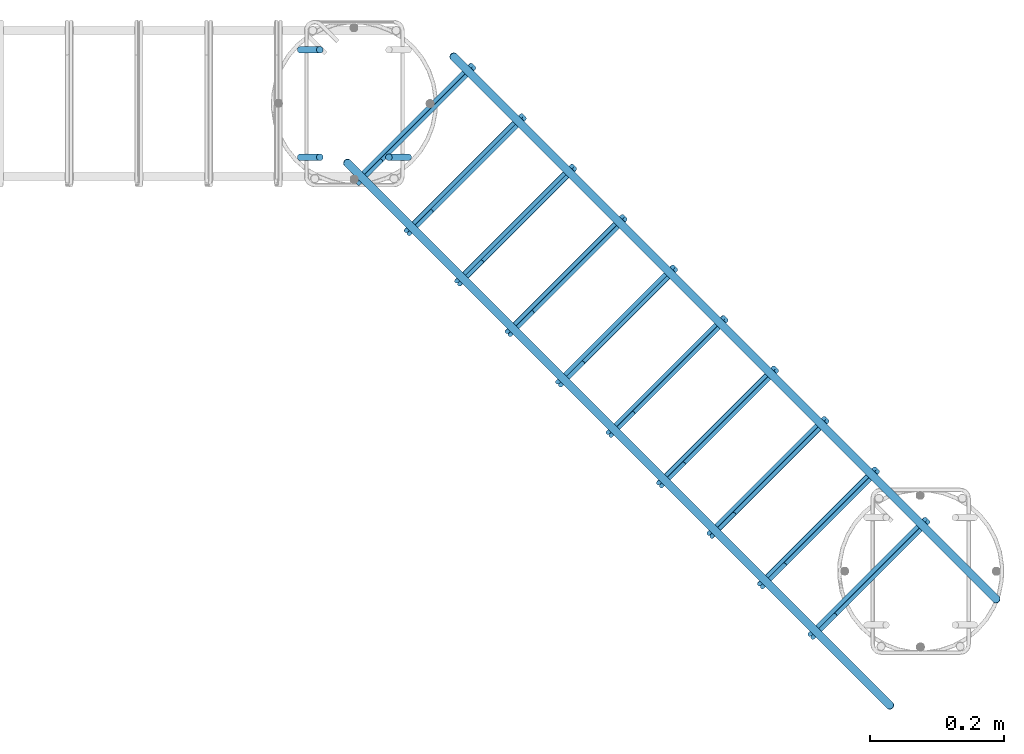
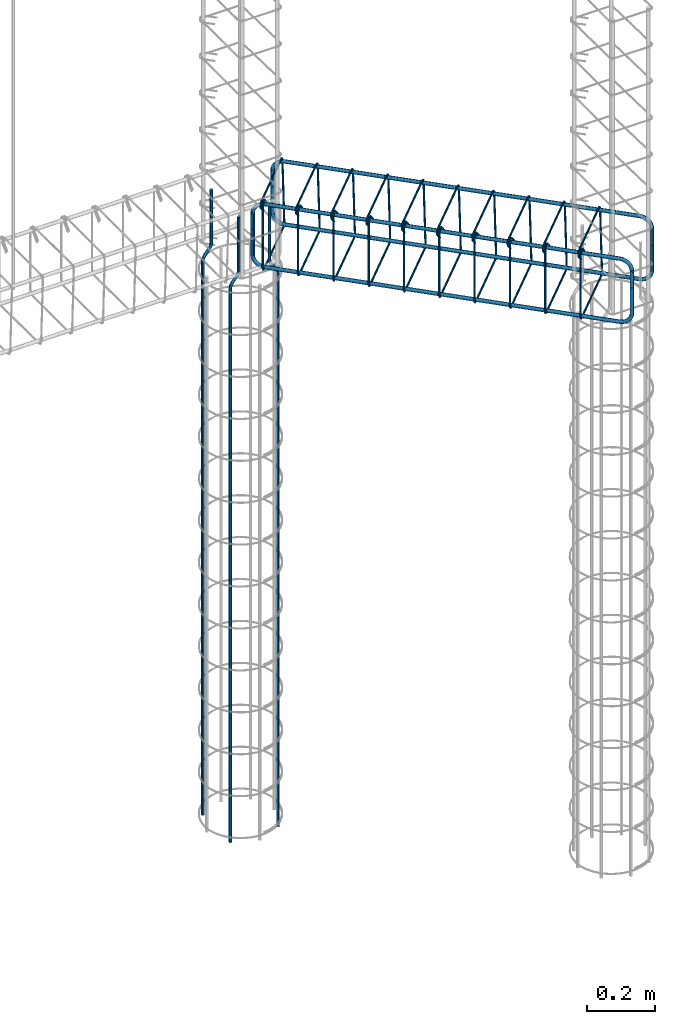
# One storey, part 13 of 14: 6 reinforcing bars.
"""IFC4 building model written with IfcOpenShell, lengths in centimetres."""

import ifcopenshell
import ifcopenshell.guid

model = None  # the IFC model being written
_history = None  # IfcOwnerHistory: only IFC2X3 demands one
_inside = {}  # id of a spatial element -> (the spatial element, [elements in it])
_under = {}  # id of a project, library or spatial element -> (it, [spatial elements below it])
_declared = {}  # id of a project -> (the project, [libraries it declares])
_typed = {}  # id of a type object -> (the type object, [elements of that type])
_made_of = {}  # id of a material, layer set ... -> (it, [elements and type objects made of it])


def new_model(schema):
    """Start an empty IFC model of exactly this schema.

    Asked for "IFC4X3", IfcOpenShell would pick the latest addendum, in which some entities
    have other attributes; the version numbers below select the first issue.
    IFC2X3 requires an IfcOwnerHistory on every rooted entity: one is made here for all.
    """
    global model, _history
    if schema == "IFC4X3":
        model = ifcopenshell.file(schema_version=(4, 3, 0, 0))
    else:
        model = ifcopenshell.file(schema=schema)
    _inside.clear()
    _under.clear()
    _declared.clear()
    _typed.clear()
    _made_of.clear()
    _history = None
    if model.schema == "IFC2X3":
        org = make("IfcOrganization", Name="unknown")
        user = make(
            "IfcPersonAndOrganization",
            ThePerson=make("IfcPerson", FamilyName="unknown"),
            TheOrganization=org,
        )
        app = make(
            "IfcApplication",
            ApplicationDeveloper=org,
            Version="unknown",
            ApplicationFullName="unknown",
            ApplicationIdentifier="unknown",
        )
        _history = make(
            "IfcOwnerHistory",
            OwningUser=user,
            OwningApplication=app,
            ChangeAction="ADDED",
            CreationDate=0,
        )
    return model


def make(cls, **values):
    """One entity of the class cls with the attributes given. An attribute that is None is left unset."""
    return model.create_entity(
        cls, **{name: value for name, value in values.items() if value is not None}
    )


def entity(cls, *values):
    """Any entity or typed value of the class cls, its attributes in the order of the schema. None: left unset."""
    e = model.create_entity(cls)
    for i, value in enumerate(values):
        if value is not None:
            e[i] = value
    return e


def rooted(cls, **values):
    """An entity with a GlobalId (a new one), such as an element, a storey or a relation."""
    return make(cls, GlobalId=ifcopenshell.guid.new(), OwnerHistory=_history, **values)


def si_unit(unit_type, name, prefix=None):
    """IfcSIUnit, for example si_unit("LENGTHUNIT", "METRE", prefix="MILLI")."""
    return make("IfcSIUnit", UnitType=unit_type, Prefix=prefix, Name=name)


def converted_unit(unit_type, name, factor, base, dimensions=None, offset=None):
    """IfcConversionBasedUnit, such as the inch: factor (a typed value) times the base unit."""
    return make(
        "IfcConversionBasedUnit"
        if offset is None
        else "IfcConversionBasedUnitWithOffset",
        ConversionOffset=offset,
        Dimensions=None
        if dimensions is None
        else entity("IfcDimensionalExponents", *dimensions),
        UnitType=unit_type,
        Name=name,
        ConversionFactor=make(
            "IfcMeasureWithUnit", ValueComponent=factor, UnitComponent=base
        ),
    )


def derived_unit(unit_type, elements):
    """IfcDerivedUnit: a product of units, each with its exponent."""
    return make(
        "IfcDerivedUnit",
        Elements=[
            make("IfcDerivedUnitElement", Unit=unit, Exponent=power)
            for unit, power in elements
        ],
        UnitType=unit_type,
    )


def assignment(units):
    """IfcUnitAssignment: the units of a project."""
    return None if units is None else make("IfcUnitAssignment", Units=units)


def point(xyz):
    """IfcCartesianPoint."""
    return None if xyz is None else make("IfcCartesianPoint", Coordinates=xyz)


def direction(xyz):
    """IfcDirection."""
    return None if xyz is None else make("IfcDirection", DirectionRatios=xyz)


def frame(location, z_axis=None, x_axis=None):
    """IfcAxis2Placement3D, a coordinate frame: its origin and axes. An axis left out is left unset."""
    return make(
        "IfcAxis2Placement3D",
        Location=point(location),
        Axis=direction(z_axis),
        RefDirection=direction(x_axis),
    )


def origin():
    """The frame at (0, 0, 0) with its axes left unset."""
    return frame((0.0, 0.0, 0.0))


def place(relative_to, where):
    """IfcLocalPlacement: puts the frame where relative to a parent placement (None: the world)."""
    return make(
        "IfcLocalPlacement", PlacementRelTo=relative_to, RelativePlacement=where
    )


def context(
    kind, dimensions, precision=None, world=None, true_north=None, identifier=None
):
    """IfcGeometricRepresentationContext, for example the 3D "Model" context."""
    return make(
        "IfcGeometricRepresentationContext",
        ContextIdentifier=identifier,
        ContextType=kind,
        CoordinateSpaceDimension=dimensions,
        Precision=precision,
        WorldCoordinateSystem=world,
        TrueNorth=true_north,
    )


def subcontext(parent, identifier, kind, view, scale=None):
    """IfcGeometricRepresentationSubContext, for example "Body" below "Model"."""
    return make(
        "IfcGeometricRepresentationSubContext",
        ContextIdentifier=identifier,
        ContextType=kind,
        ParentContext=parent,
        TargetScale=scale,
        TargetView=view,
    )


def project(units=None, contexts=None):
    """IfcProject with its units and contexts."""
    return rooted(
        "IfcProject",
        Name="project",
        RepresentationContexts=contexts,
        UnitsInContext=assignment(units),
    )


def spatial(cls, under=None, at=None, **own):
    """A site, building, storey or space (cls), placed at a placement, below another one or the project."""
    s = rooted(cls, ObjectPlacement=at, **own)
    if under is not None:
        _under.setdefault(under.id(), (under, []))[1].append(s)
    return s


def shape(context_of_items, identifier, shape_type, items):
    """IfcShapeRepresentation: the items that make up one representation, for example the "Body"."""
    return make(
        "IfcShapeRepresentation",
        ContextOfItems=context_of_items,
        RepresentationIdentifier=identifier,
        RepresentationType=shape_type,
        Items=items,
    )


def made_of(thing, what):
    """Note that an element or type object is made of a material, layer set ...; save() writes the relation."""
    if what is not None:
        _made_of.setdefault(what.id(), (what, []))[1].append(thing)
    return thing


def type_object(cls, material=None, **own):
    """A type object (cls), such as IfcWallType, which elements share."""
    return made_of(rooted(cls, **own), material)


def element(
    cls,
    number,
    at=None,
    inside=None,
    cuts=None,
    type_object=None,
    material=None,
    context=None,
    identifier="Body",
    shape_type=None,
    held_by="IfcProductDefinitionShape",
    body=None,
    shapes=None,
    **own,
):
    """One element of the class cls, such as IfcWall. Its Tag is "e" and its number.

    at: its placement. inside: the storey or other place that contains it. cuts: it is an
    opening in that element (IfcRelVoidsElement). A single representation is given by context,
    identifier, shape_type and body (its items); several are given by shapes. held_by: the class
    of the entity that holds the representations. save() writes the other relations.
    """
    e = rooted(cls, Tag="e%d" % number, ObjectPlacement=at, **own)
    if body is not None:
        shapes = [shape(context, identifier, shape_type, body)]
    if shapes is not None:
        e.Representation = make(held_by, Representations=shapes)
    if inside is not None:
        _inside.setdefault(inside.id(), (inside, []))[1].append(e)
    if cuts is not None:
        rooted(
            "IfcRelVoidsElement", RelatingBuildingElement=cuts, RelatedOpeningElement=e
        )
    if type_object is not None:
        _typed.setdefault(type_object.id(), (type_object, []))[1].append(e)
    return made_of(e, material)


def aggregate(whole, parts):
    """IfcRelAggregates: a whole, such as a stair, and the parts it consists of."""
    return rooted("IfcRelAggregates", RelatingObject=whole, RelatedObjects=parts)


def save(model, path):
    """Write the relations noted so far, then the file.

    IfcRelAggregates (storeys below a building ...), IfcRelContainedInSpatialStructure (elements
    in a storey), IfcRelDefinesByType, IfcRelAssociatesMaterial and IfcRelDeclares: one each for
    every whole, place, type object, material and project.
    """
    for whole, parts in _under.values():
        aggregate(whole, parts)
    for where, things in _inside.values():
        rooted(
            "IfcRelContainedInSpatialStructure",
            RelatedElements=things,
            RelatingStructure=where,
        )
    for kind, things in _typed.values():
        rooted("IfcRelDefinesByType", RelatedObjects=things, RelatingType=kind)
    for what, things in _made_of.values():
        rooted("IfcRelAssociatesMaterial", RelatedObjects=things, RelatingMaterial=what)
    for by, libraries in _declared.values():
        rooted("IfcRelDeclares", RelatingContext=by, RelatedDefinitions=libraries)
    model.write(path)


model = new_model("IFC4")

# Units and contexts
model_context = context("Model", 3, precision=0.001, world=origin(), true_north=direction((6.123233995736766e-17, 1.0)))
body_context = subcontext(model_context, "Body", "Model", "MODEL_VIEW")
ifc_project = project(units=[si_unit("LENGTHUNIT", "METRE", prefix="CENTI"), si_unit("AREAUNIT", "SQUARE_METRE"), converted_unit("PLANEANGLEUNIT", "DEGREE", entity("IfcPlaneAngleMeasure", 0.017453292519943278), si_unit("PLANEANGLEUNIT", "RADIAN"), dimensions=[0, 0, 0, 0, 0, 0, 0]), si_unit("VOLUMEUNIT", "CUBIC_METRE"), derived_unit("THERMALTRANSMITTANCEUNIT", [(si_unit("MASSUNIT", "GRAM", prefix="KILO"), 1), (si_unit("THERMODYNAMICTEMPERATUREUNIT", "KELVIN"), -1), (si_unit("TIMEUNIT", "SECOND"), -3)])], contexts=[model_context])

# Site, building, storey
site_placement = place(None, origin())
site = spatial("IfcSite", under=ifc_project, at=site_placement, Name="Default", CompositionType="ELEMENT")
building_placement = place(site_placement, origin())
building = spatial("IfcBuilding", under=site, at=building_placement, Name="CONTENÇÃO DE ARQUIBANCADA - GINÁSIO PADRÃO", CompositionType="ELEMENT")
storey_placement = place(building_placement, frame((0.0, 0.0, -100.0)))
storey = spatial("IfcBuildingStorey", under=building, at=storey_placement, Name="Nível 3", CompositionType="ELEMENT", Elevation=-100.0)

# Reinforcing bars
reinforcing_bar_type_1 = type_object("IfcReinforcingBarType", Name="Barra do vergalhão:10 CA-50", PredefinedType="NOTDEFINED")
reinforcing_bar_1_placement = place(storey_placement, origin())
element("IfcReinforcingBar", 1, at=reinforcing_bar_1_placement, inside=storey, type_object=reinforcing_bar_type_1, Name="Barra do vergalhão:10 CA-50 : Forma 19", ObjectType="Barra do vergalhão:10 CA-50", context=body_context, shape_type="AdvancedSweptSolid", body=[
    entity("IfcSweptDiskSolid", entity("IfcIndexedPolyCurve", entity("IfcCartesianPointList3D", [[546.4145012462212, 257.11499005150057, -129.99999999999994], [546.414501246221, 257.11499005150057, 67.4289900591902], [546.5891506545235, 257.11499005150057, 68.43764958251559], [547.0927639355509, 257.11499005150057, 69.32886791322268], [548.6083258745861, 257.11499005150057, 71.18095366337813], [549.1119391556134, 257.11499005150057, 72.07217199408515], [549.2865885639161, 257.1149900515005, 73.08083151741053], [549.2865885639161, 257.1149900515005, 92.00982157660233]]), [entity("IfcLineIndex", [1, 2]), entity("IfcArcIndex", [2, 3, 4]), entity("IfcLineIndex", [4, 5]), entity("IfcArcIndex", [5, 6, 7]), entity("IfcLineIndex", [7, 8])], False), 0.5, None, 0.0, 81.58693171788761),
])
reinforcing_bar_2_placement = place(storey_placement, origin())
element("IfcReinforcingBar", 2, at=reinforcing_bar_2_placement, inside=storey, type_object=reinforcing_bar_type_1, Name="Barra do vergalhão:10 CA-50 : Forma 19", ObjectType="Barra do vergalhão:10 CA-50", context=body_context, shape_type="AdvancedSweptSolid", body=[
    entity("IfcSweptDiskSolid", entity("IfcIndexedPolyCurve", entity("IfcCartesianPointList3D", [[562.4961308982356, 241.0333603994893, -129.99999999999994], [562.496130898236, 241.0333603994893, 67.4289900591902], [562.3214814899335, 241.0333603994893, 68.43764958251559], [561.8178682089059, 241.0333603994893, 69.32886791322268], [560.3023062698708, 241.0333603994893, 71.18095366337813], [559.7986929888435, 241.0333603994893, 72.07217199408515], [559.6240435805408, 241.0333603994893, 73.08083151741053], [559.6240435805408, 241.0333603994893, 92.00982157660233]]), [entity("IfcLineIndex", [1, 2]), entity("IfcArcIndex", [2, 3, 4]), entity("IfcLineIndex", [4, 5]), entity("IfcArcIndex", [5, 6, 7]), entity("IfcLineIndex", [7, 8])], False), 0.5, None, 0.0, 81.58693171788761),
])
reinforcing_bar_3_placement = place(storey_placement, origin())
element("IfcReinforcingBar", 3, at=reinforcing_bar_3_placement, inside=storey, type_object=reinforcing_bar_type_1, Name="Barra do vergalhão:10 CA-50 : Forma 19", ObjectType="Barra do vergalhão:10 CA-50", context=body_context, shape_type="AdvancedSweptSolid", body=[
    entity("IfcSweptDiskSolid", entity("IfcIndexedPolyCurve", entity("IfcCartesianPointList3D", [[546.4145012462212, 241.0333603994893, -129.99999999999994], [546.414501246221, 241.0333603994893, 67.4289900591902], [546.5891506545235, 241.0333603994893, 68.43764958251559], [547.0927639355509, 241.0333603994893, 69.32886791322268], [548.6083258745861, 241.0333603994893, 71.18095366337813], [549.1119391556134, 241.0333603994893, 72.07217199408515], [549.2865885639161, 241.0333603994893, 73.08083151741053], [549.2865885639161, 241.0333603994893, 92.00982157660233]]), [entity("IfcLineIndex", [1, 2]), entity("IfcArcIndex", [2, 3, 4]), entity("IfcLineIndex", [4, 5]), entity("IfcArcIndex", [5, 6, 7]), entity("IfcLineIndex", [7, 8])], False), 0.5, None, 0.0, 81.58693171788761),
])
reinforcing_bar_type_2 = type_object("IfcReinforcingBarType", Name="Barra do vergalhão:12.5 CA-50", PredefinedType="NOTDEFINED")
reinforcing_bar_4_placement = place(storey_placement, origin())
element("IfcReinforcingBar", 4, at=reinforcing_bar_4_placement, inside=storey, type_object=reinforcing_bar_type_2, Name="Barra do vergalhão:12.5 CA-50 : Forma 16", ObjectType="Barra do vergalhão:12.5 CA-50", context=body_context, shape_type="AdvancedSweptSolid", body=[
    entity("IfcSweptDiskSolid", entity("IfcIndexedPolyCurve", entity("IfcCartesianPointList3D", [[634.5720774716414, 159.0147648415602, 93.12999999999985], [634.5720774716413, 159.01476484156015, 77.50499999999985], [633.7954270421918, 159.79141527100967, 74.8533495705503], [631.9204270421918, 161.66641527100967, 73.75499999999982], [556.0832247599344, 237.5036175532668, 73.75499999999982], [554.2082247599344, 239.3786175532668, 74.85334957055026], [553.4315743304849, 240.1552679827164, 77.50499999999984], [553.431574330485, 240.15526798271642, 93.12999999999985]]), [entity("IfcLineIndex", [1, 2]), entity("IfcArcIndex", [2, 3, 4]), entity("IfcLineIndex", [4, 5]), entity("IfcArcIndex", [5, 6, 7]), entity("IfcLineIndex", [7, 8])], False), 0.625, None, 0.0, 183.00000000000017),
    entity("IfcSweptDiskSolid", entity("IfcIndexedPolyCurve", entity("IfcCartesianPointList3D", [[650.4749089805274, 174.91759635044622, 93.12999999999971], [650.4749089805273, 174.91759635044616, 77.50499999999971], [649.6982585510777, 175.69424677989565, 74.85334957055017], [647.8232585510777, 177.56924677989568, 73.7549999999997], [571.9860562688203, 253.40644906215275, 73.7549999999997], [570.1110562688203, 255.28144906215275, 74.85334957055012], [569.3344058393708, 256.0580994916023, 77.5049999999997], [569.3344058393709, 256.05809949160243, 93.12999999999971]]), [entity("IfcLineIndex", [1, 2]), entity("IfcArcIndex", [2, 3, 4]), entity("IfcLineIndex", [4, 5]), entity("IfcArcIndex", [5, 6, 7]), entity("IfcLineIndex", [7, 8])], False), 0.625, None, 0.0, 183.00000000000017),
])
reinforcing_bar_5_placement = place(storey_placement, origin())
element("IfcReinforcingBar", 5, at=reinforcing_bar_5_placement, inside=storey, type_object=reinforcing_bar_type_2, Name="Barra do vergalhão:12.5 CA-50 : Forma 16", ObjectType="Barra do vergalhão:12.5 CA-50", context=body_context, shape_type="AdvancedSweptSolid", body=[
    entity("IfcSweptDiskSolid", entity("IfcIndexedPolyCurve", entity("IfcCartesianPointList3D", [[650.4749089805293, 174.91759635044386, 86.8699999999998], [650.4749089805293, 174.91759635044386, 92.49499999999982], [649.6982585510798, 175.69424677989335, 95.14665042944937], [647.8232585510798, 177.56924677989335, 96.24499999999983], [571.9860562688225, 253.40644906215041, 96.24499999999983], [570.1110562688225, 255.28144906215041, 95.14665042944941], [569.3344058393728, 256.0580994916, 92.49499999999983], [569.3344058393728, 256.0580994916, 86.8699999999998]]), [entity("IfcLineIndex", [1, 2]), entity("IfcArcIndex", [2, 3, 4]), entity("IfcLineIndex", [4, 5]), entity("IfcArcIndex", [5, 6, 7]), entity("IfcLineIndex", [7, 8])], False), 0.625, None, 0.0, 183.00000000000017),
    entity("IfcSweptDiskSolid", entity("IfcIndexedPolyCurve", entity("IfcCartesianPointList3D", [[634.5720774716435, 159.01476484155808, 86.86999999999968], [634.5720774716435, 159.01476484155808, 92.49499999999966], [633.7954270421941, 159.7914152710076, 95.14665042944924], [631.9204270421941, 161.66641527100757, 96.24499999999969], [556.0832247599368, 237.5036175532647, 96.24499999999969], [554.2082247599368, 239.3786175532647, 95.14665042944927], [553.4315743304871, 240.1552679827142, 92.49499999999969], [553.4315743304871, 240.15526798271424, 86.86999999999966]]), [entity("IfcLineIndex", [1, 2]), entity("IfcArcIndex", [2, 3, 4]), entity("IfcLineIndex", [4, 5]), entity("IfcArcIndex", [5, 6, 7]), entity("IfcLineIndex", [7, 8])], False), 0.625, None, 0.0, 183.00000000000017),
])
reinforcing_bar_type_3 = type_object("IfcReinforcingBarType", Name="Barra do vergalhão:6.3 CA-50", PredefinedType="NOTDEFINED")
reinforcing_bar_6_placement = place(storey_placement, origin())
element("IfcReinforcingBar", 6, at=reinforcing_bar_6_placement, inside=storey, type_object=reinforcing_bar_type_3, Name="Barra do vergalhão:6.3 CA-50 : Forma 22", ObjectType="Barra do vergalhão:6.3 CA-50", context=body_context, shape_type="AdvancedSweptSolid", body=[
    entity("IfcSweptDiskSolid", entity("IfcIndexedPolyCurve", entity("IfcCartesianPointList3D", [[558.4351284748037, 240.4704571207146, 94.26598964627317], [556.6320310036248, 238.66735964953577, 96.81595454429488], [555.6610774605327, 237.69640610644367, 97.08908821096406], [555.1110764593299, 237.14640510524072, 95.92499999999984], [555.1110764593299, 237.14640510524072, 74.07499999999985], [555.3720310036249, 237.4073596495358, 73.1840454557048], [556.0020310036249, 238.0373596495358, 72.81499999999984], [571.4523141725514, 253.48764281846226, 72.81499999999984], [572.0755703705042, 254.12438662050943, 73.18392220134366], [572.3202439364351, 254.40162214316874, 74.07457918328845], [571.9208162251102, 254.8010498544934, 95.92542081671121], [571.643580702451, 254.55637628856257, 96.81607779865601], [571.0068369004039, 253.93312009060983, 97.18499999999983], [555.5565537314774, 238.48283692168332, 97.18499999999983], [554.7334190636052, 237.6597022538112, 96.40718112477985], [554.9265537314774, 237.85283692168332, 95.03404545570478], [556.7296512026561, 239.65593439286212, 92.48408055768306]]), [entity("IfcLineIndex", [1, 2]), entity("IfcArcIndex", [2, 3, 4]), entity("IfcLineIndex", [4, 5]), entity("IfcArcIndex", [5, 6, 7]), entity("IfcLineIndex", [7, 8]), entity("IfcArcIndex", [8, 9, 10]), entity("IfcLineIndex", [10, 11]), entity("IfcArcIndex", [11, 12, 13]), entity("IfcLineIndex", [13, 14]), entity("IfcArcIndex", [14, 15, 16]), entity("IfcLineIndex", [16, 17])], False), 0.31499999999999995, None, 0.0, 546.0000000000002),
    entity("IfcSweptDiskSolid", entity("IfcIndexedPolyCurve", entity("IfcCartesianPointList3D", [[565.9855623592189, 232.92002323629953, 94.26598964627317], [564.1824648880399, 231.1169257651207, 96.81595454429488], [563.2115113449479, 230.1459722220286, 97.08908821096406], [562.661510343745, 229.59597122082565, 95.92499999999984], [562.661510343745, 229.59597122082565, 74.07499999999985], [562.92246488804, 229.8569257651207, 73.1840454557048], [563.55246488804, 230.4869257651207, 72.81499999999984], [579.0027480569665, 245.93720893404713, 72.81499999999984], [579.6260042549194, 246.57395273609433, 73.18392220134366], [579.8706778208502, 246.8511882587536, 74.07457918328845], [579.4712501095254, 247.25061597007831, 95.92542081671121], [579.1940145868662, 247.00594240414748, 96.81607779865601], [578.557270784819, 246.3826862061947, 97.18499999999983], [563.1069876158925, 230.93240303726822, 97.18499999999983], [562.2838529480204, 230.1092683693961, 96.40718112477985], [562.4769876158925, 230.30240303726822, 95.03404545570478], [564.2800850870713, 232.10550050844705, 92.48408055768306]]), [entity("IfcLineIndex", [1, 2]), entity("IfcArcIndex", [2, 3, 4]), entity("IfcLineIndex", [4, 5]), entity("IfcArcIndex", [5, 6, 7]), entity("IfcLineIndex", [7, 8]), entity("IfcArcIndex", [8, 9, 10]), entity("IfcLineIndex", [10, 11]), entity("IfcArcIndex", [11, 12, 13]), entity("IfcLineIndex", [13, 14]), entity("IfcArcIndex", [14, 15, 16]), entity("IfcLineIndex", [16, 17])], False), 0.31499999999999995, None, 0.0, 546.0000000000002),
    entity("IfcSweptDiskSolid", entity("IfcIndexedPolyCurve", entity("IfcCartesianPointList3D", [[573.5359962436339, 225.3695893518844, 94.26598964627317], [571.7328987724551, 223.56649188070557, 96.81595454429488], [570.7619452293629, 222.59553833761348, 97.08908821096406], [570.2119442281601, 222.04553733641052, 95.92499999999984], [570.2119442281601, 222.04553733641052, 74.07499999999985], [570.4728987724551, 222.3064918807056, 73.1840454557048], [571.1028987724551, 222.93649188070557, 72.81499999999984], [586.5531819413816, 238.38677504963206, 72.81499999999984], [587.1764381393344, 239.02351885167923, 73.18392220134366], [587.4211117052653, 239.30075437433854, 74.07457918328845], [587.0216839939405, 239.70018208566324, 95.92542081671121], [586.7444484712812, 239.4555085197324, 96.81607779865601], [586.1077046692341, 238.8322523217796, 97.18499999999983], [570.6574215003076, 223.38196915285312, 97.18499999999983], [569.8342868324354, 222.558834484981, 96.40718112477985], [570.0274215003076, 222.75196915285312, 95.03404545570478], [571.8305189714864, 224.55506662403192, 92.48408055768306]]), [entity("IfcLineIndex", [1, 2]), entity("IfcArcIndex", [2, 3, 4]), entity("IfcLineIndex", [4, 5]), entity("IfcArcIndex", [5, 6, 7]), entity("IfcLineIndex", [7, 8]), entity("IfcArcIndex", [8, 9, 10]), entity("IfcLineIndex", [10, 11]), entity("IfcArcIndex", [11, 12, 13]), entity("IfcLineIndex", [13, 14]), entity("IfcArcIndex", [14, 15, 16]), entity("IfcLineIndex", [16, 17])], False), 0.31499999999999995, None, 0.0, 546.0000000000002),
    entity("IfcSweptDiskSolid", entity("IfcIndexedPolyCurve", entity("IfcCartesianPointList3D", [[581.0864301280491, 217.8191554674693, 94.26598964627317], [579.2833326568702, 216.0160579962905, 96.81595454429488], [578.3123791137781, 215.0451044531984, 97.08908821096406], [577.7623781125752, 214.49510345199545, 95.92499999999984], [577.7623781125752, 214.49510345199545, 74.07499999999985], [578.0233326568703, 214.7560579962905, 73.1840454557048], [578.6533326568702, 215.3860579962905, 72.81499999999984], [594.1036158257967, 230.83634116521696, 72.81499999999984], [594.7268720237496, 231.47308496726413, 73.18392220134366], [594.9715455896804, 231.75032048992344, 74.07457918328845], [594.5721178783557, 232.14974820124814, 95.92542081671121], [594.2948823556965, 231.90507463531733, 96.81607779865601], [593.6581385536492, 231.2818184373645, 97.18499999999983], [578.2078553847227, 215.83153526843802, 97.18499999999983], [577.3847207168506, 215.0084006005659, 96.40718112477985], [577.5778553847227, 215.20153526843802, 95.03404545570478], [579.3809528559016, 217.00463273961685, 92.48408055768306]]), [entity("IfcLineIndex", [1, 2]), entity("IfcArcIndex", [2, 3, 4]), entity("IfcLineIndex", [4, 5]), entity("IfcArcIndex", [5, 6, 7]), entity("IfcLineIndex", [7, 8]), entity("IfcArcIndex", [8, 9, 10]), entity("IfcLineIndex", [10, 11]), entity("IfcArcIndex", [11, 12, 13]), entity("IfcLineIndex", [13, 14]), entity("IfcArcIndex", [14, 15, 16]), entity("IfcLineIndex", [16, 17])], False), 0.31499999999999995, None, 0.0, 546.0000000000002),
    entity("IfcSweptDiskSolid", entity("IfcIndexedPolyCurve", entity("IfcCartesianPointList3D", [[588.6368640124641, 210.26872158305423, 94.26598964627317], [586.8337665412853, 208.4656241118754, 96.81595454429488], [585.8628129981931, 207.4946705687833, 97.08908821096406], [585.3128119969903, 206.94466956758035, 95.92499999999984], [585.3128119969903, 206.94466956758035, 74.07499999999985], [585.5737665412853, 207.2056241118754, 73.1840454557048], [586.2037665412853, 207.8356241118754, 72.81499999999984], [601.6540497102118, 223.28590728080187, 72.81499999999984], [602.2773059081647, 223.92265108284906, 73.18392220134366], [602.5219794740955, 224.19988660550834, 74.07457918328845], [602.1225517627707, 224.59931431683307, 95.92542081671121], [601.8453162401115, 224.35464075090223, 96.81607779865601], [601.2085724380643, 223.7313845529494, 97.18499999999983], [585.7582892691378, 208.28110138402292, 97.18499999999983], [584.9351546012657, 207.45796671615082, 96.40718112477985], [585.1282892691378, 207.65110138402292, 95.03404545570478], [586.9313867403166, 209.45419885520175, 92.48408055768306]]), [entity("IfcLineIndex", [1, 2]), entity("IfcArcIndex", [2, 3, 4]), entity("IfcLineIndex", [4, 5]), entity("IfcArcIndex", [5, 6, 7]), entity("IfcLineIndex", [7, 8]), entity("IfcArcIndex", [8, 9, 10]), entity("IfcLineIndex", [10, 11]), entity("IfcArcIndex", [11, 12, 13]), entity("IfcLineIndex", [13, 14]), entity("IfcArcIndex", [14, 15, 16]), entity("IfcLineIndex", [16, 17])], False), 0.31499999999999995, None, 0.0, 546.0000000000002),
    entity("IfcSweptDiskSolid", entity("IfcIndexedPolyCurve", entity("IfcCartesianPointList3D", [[596.1872978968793, 202.7182876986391, 94.26598964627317], [594.3842004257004, 200.91519022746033, 96.81595454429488], [593.4132468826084, 199.94423668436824, 97.08908821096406], [592.8632458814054, 199.39423568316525, 95.92499999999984], [592.8632458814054, 199.39423568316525, 74.07499999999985], [593.1242004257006, 199.65519022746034, 73.1840454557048], [593.7542004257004, 200.2851902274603, 72.81499999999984], [609.204483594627, 215.7354733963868, 72.81499999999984], [609.8277397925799, 216.37221719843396, 73.18392220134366], [610.0724133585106, 216.64945272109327, 74.07457918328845], [609.6729856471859, 217.04888043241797, 95.92542081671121], [609.3957501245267, 216.80420686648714, 96.81607779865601], [608.7590063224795, 216.18095066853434, 97.18499999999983], [593.3087231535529, 200.73066749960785, 97.18499999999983], [592.4855884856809, 199.90753283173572, 96.40718112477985], [592.678723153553, 200.10066749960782, 95.03404545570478], [594.4818206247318, 201.90376497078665, 92.48408055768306]]), [entity("IfcLineIndex", [1, 2]), entity("IfcArcIndex", [2, 3, 4]), entity("IfcLineIndex", [4, 5]), entity("IfcArcIndex", [5, 6, 7]), entity("IfcLineIndex", [7, 8]), entity("IfcArcIndex", [8, 9, 10]), entity("IfcLineIndex", [10, 11]), entity("IfcArcIndex", [11, 12, 13]), entity("IfcLineIndex", [13, 14]), entity("IfcArcIndex", [14, 15, 16]), entity("IfcLineIndex", [16, 17])], False), 0.31499999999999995, None, 0.0, 546.0000000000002),
    entity("IfcSweptDiskSolid", entity("IfcIndexedPolyCurve", entity("IfcCartesianPointList3D", [[603.7377317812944, 195.16785381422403, 94.26598964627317], [601.9346343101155, 193.3647563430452, 96.81595454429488], [600.9636807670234, 192.3938027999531, 97.08908821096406], [600.4136797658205, 191.84380179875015, 95.92499999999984], [600.4136797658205, 191.84380179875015, 74.07499999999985], [600.6746343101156, 192.1047563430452, 73.1840454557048], [601.3046343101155, 192.7347563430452, 72.81499999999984], [616.7549174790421, 208.18503951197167, 72.81499999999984], [617.378173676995, 208.82178331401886, 73.18392220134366], [617.6228472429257, 209.09901883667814, 74.07457918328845], [617.2234195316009, 209.49844654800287, 95.92542081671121], [616.9461840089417, 209.25377298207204, 96.81607779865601], [616.3094402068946, 208.6305167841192, 97.18499999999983], [600.859157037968, 193.18023361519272, 97.18499999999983], [600.0360223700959, 192.35709894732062, 96.40718112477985], [600.2291570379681, 192.55023361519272, 95.03404545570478], [602.0322545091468, 194.35333108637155, 92.48408055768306]]), [entity("IfcLineIndex", [1, 2]), entity("IfcArcIndex", [2, 3, 4]), entity("IfcLineIndex", [4, 5]), entity("IfcArcIndex", [5, 6, 7]), entity("IfcLineIndex", [7, 8]), entity("IfcArcIndex", [8, 9, 10]), entity("IfcLineIndex", [10, 11]), entity("IfcArcIndex", [11, 12, 13]), entity("IfcLineIndex", [13, 14]), entity("IfcArcIndex", [14, 15, 16]), entity("IfcLineIndex", [16, 17])], False), 0.31499999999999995, None, 0.0, 546.0000000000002),
    entity("IfcSweptDiskSolid", entity("IfcIndexedPolyCurve", entity("IfcCartesianPointList3D", [[611.2881656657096, 187.61741992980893, 94.26598964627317], [609.4850681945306, 185.8143224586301, 96.81595454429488], [608.5141146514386, 184.843368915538, 97.08908821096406], [607.9641136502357, 184.29336791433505, 95.92499999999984], [607.9641136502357, 184.29336791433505, 74.07499999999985], [608.2250681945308, 184.55432245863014, 73.1840454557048], [608.8550681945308, 185.18432245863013, 72.81499999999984], [624.3053513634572, 200.6346056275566, 72.81499999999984], [624.9286075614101, 201.27134942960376, 73.18392220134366], [625.1732811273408, 201.54858495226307, 74.07457918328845], [624.7738534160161, 201.94801266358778, 95.92542081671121], [624.4966178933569, 201.70333909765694, 96.81607779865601], [623.8598740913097, 201.08008289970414, 97.18499999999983], [608.4095909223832, 185.62979973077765, 97.18499999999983], [607.5864562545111, 184.80666506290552, 96.40718112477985], [607.7795909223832, 184.99979973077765, 95.03404545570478], [609.582688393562, 186.80289720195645, 92.48408055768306]]), [entity("IfcLineIndex", [1, 2]), entity("IfcArcIndex", [2, 3, 4]), entity("IfcLineIndex", [4, 5]), entity("IfcArcIndex", [5, 6, 7]), entity("IfcLineIndex", [7, 8]), entity("IfcArcIndex", [8, 9, 10]), entity("IfcLineIndex", [10, 11]), entity("IfcArcIndex", [11, 12, 13]), entity("IfcLineIndex", [13, 14]), entity("IfcArcIndex", [14, 15, 16]), entity("IfcLineIndex", [16, 17])], False), 0.31499999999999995, None, 0.0, 546.0000000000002),
    entity("IfcSweptDiskSolid", entity("IfcIndexedPolyCurve", entity("IfcCartesianPointList3D", [[618.8385995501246, 180.0669860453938, 94.26598964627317], [617.0355020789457, 178.26388857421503, 96.81595454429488], [616.0645485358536, 177.29293503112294, 97.08908821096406], [615.5145475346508, 176.74293402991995, 95.92499999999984], [615.5145475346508, 176.74293402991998, 74.07499999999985], [615.7755020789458, 177.00388857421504, 73.1840454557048], [616.4055020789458, 177.633888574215, 72.81499999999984], [631.8557852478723, 193.0841717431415, 72.81499999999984], [632.4790414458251, 193.72091554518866, 73.18392220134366], [632.723715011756, 193.99815106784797, 74.07457918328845], [632.3242873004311, 194.3975787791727, 95.92542081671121], [632.0470517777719, 194.15290521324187, 96.81607779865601], [631.4103079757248, 193.52964901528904, 97.18499999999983], [615.9600248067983, 178.07936584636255, 97.18499999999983], [615.1368901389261, 177.25623117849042, 96.40718112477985], [615.3300248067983, 177.44936584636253, 95.03404545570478], [617.133122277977, 179.25246331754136, 92.48408055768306]]), [entity("IfcLineIndex", [1, 2]), entity("IfcArcIndex", [2, 3, 4]), entity("IfcLineIndex", [4, 5]), entity("IfcArcIndex", [5, 6, 7]), entity("IfcLineIndex", [7, 8]), entity("IfcArcIndex", [8, 9, 10]), entity("IfcLineIndex", [10, 11]), entity("IfcArcIndex", [11, 12, 13]), entity("IfcLineIndex", [13, 14]), entity("IfcArcIndex", [14, 15, 16]), entity("IfcLineIndex", [16, 17])], False), 0.31499999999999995, None, 0.0, 546.0000000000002),
    entity("IfcSweptDiskSolid", entity("IfcIndexedPolyCurve", entity("IfcCartesianPointList3D", [[626.3890334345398, 172.51655216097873, 94.26598964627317], [624.585935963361, 170.7134546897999, 96.81595454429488], [623.6149824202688, 169.7425011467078, 97.08908821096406], [623.0649814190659, 169.19250014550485, 95.92499999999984], [623.0649814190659, 169.19250014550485, 74.07499999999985], [623.325935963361, 169.4534546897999, 73.1840454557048], [623.955935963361, 170.0834546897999, 72.81499999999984], [639.4062191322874, 185.5337378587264, 72.81499999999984], [640.0294753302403, 186.17048166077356, 73.18392220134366], [640.2741488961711, 186.44771718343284, 74.07457918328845], [639.8747211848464, 186.84714489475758, 95.92542081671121], [639.5974856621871, 186.60247132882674, 96.81607779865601], [638.9607418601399, 185.97921513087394, 97.18499999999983], [623.5104586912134, 170.52893196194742, 97.18499999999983], [622.6873240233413, 169.70579729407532, 96.40718112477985], [622.8804586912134, 169.89893196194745, 95.03404545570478], [624.6835561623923, 171.70202943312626, 92.48408055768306]]), [entity("IfcLineIndex", [1, 2]), entity("IfcArcIndex", [2, 3, 4]), entity("IfcLineIndex", [4, 5]), entity("IfcArcIndex", [5, 6, 7]), entity("IfcLineIndex", [7, 8]), entity("IfcArcIndex", [8, 9, 10]), entity("IfcLineIndex", [10, 11]), entity("IfcArcIndex", [11, 12, 13]), entity("IfcLineIndex", [13, 14]), entity("IfcArcIndex", [14, 15, 16]), entity("IfcLineIndex", [16, 17])], False), 0.31499999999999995, None, 0.0, 546.0000000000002),
])

save(model, "model.ifc")
